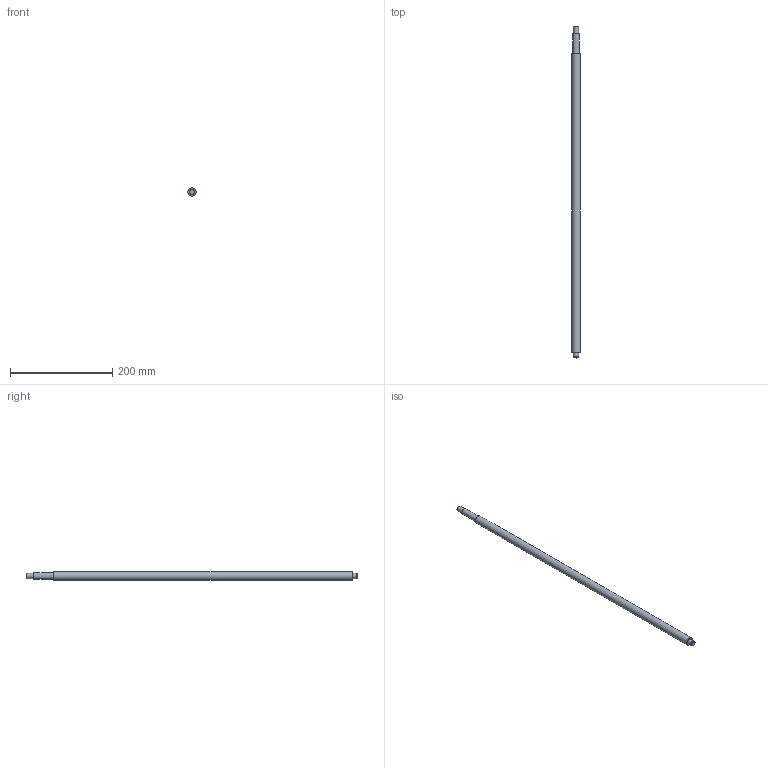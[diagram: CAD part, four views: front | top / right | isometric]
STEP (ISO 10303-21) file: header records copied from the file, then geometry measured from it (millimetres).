
FILE_DESCRIPTION(/* description */ (''),/* implementation_level */ '2;1');
FILE_NAME(/* name */ 'C:\Users\David\Desktop\stepFiles\Profilfuehrung\KUS1605x650.stp',/* time_stamp */ '2018-06-24T15:08:46+02:00',/* author */ ('David'),/* organization */ (''),/* preprocessor_version */ 'ST-DEVELOPER v17',/* originating_system */ 'Autodesk Inventor 2019',/* authorisation */ '');
FILE_SCHEMA (('AUTOMOTIVE_DESIGN { 1 0 10303 214 3 1 1 }'));
Length unit declared in the file: millimetre
Products named in the file (1): SFU1605xvariabel
Bounding box: 16 x 650 x 16 mm (x, y, z)
Volume: 124059.4 mm3; surface area: 32086.3 mm2
Topology: 1 solids, 1 shells, 15 faces, 34 edges, 26 vertices
Faces by surface type: plane 7, cylinder 6, cone 2
Full cylindrical faces by diameter (mm): 9.6 x1, 10 x3, 12 x1, 16 x1
Entity records: 493 total; most frequent: DIRECTION 92, CARTESIAN_POINT 76, ORIENTED_EDGE 68, AXIS2_PLACEMENT_3D 42, EDGE_CURVE 34, CIRCLE 26, VERTEX_POINT 26, EDGE_LOOP 20
